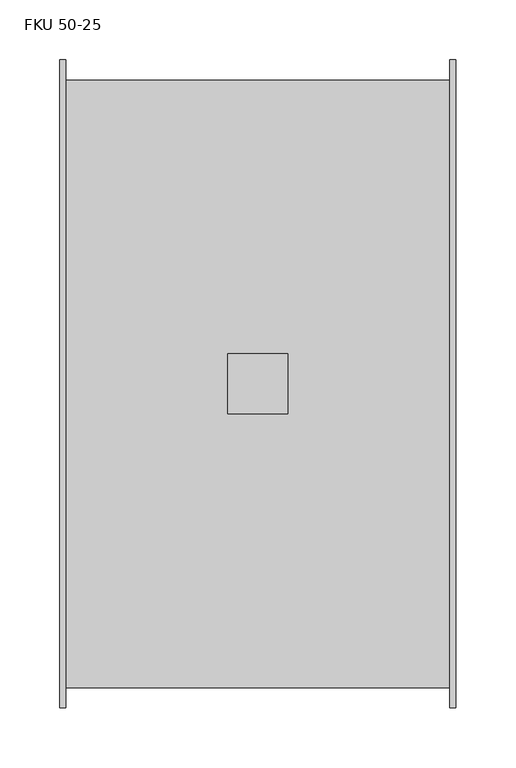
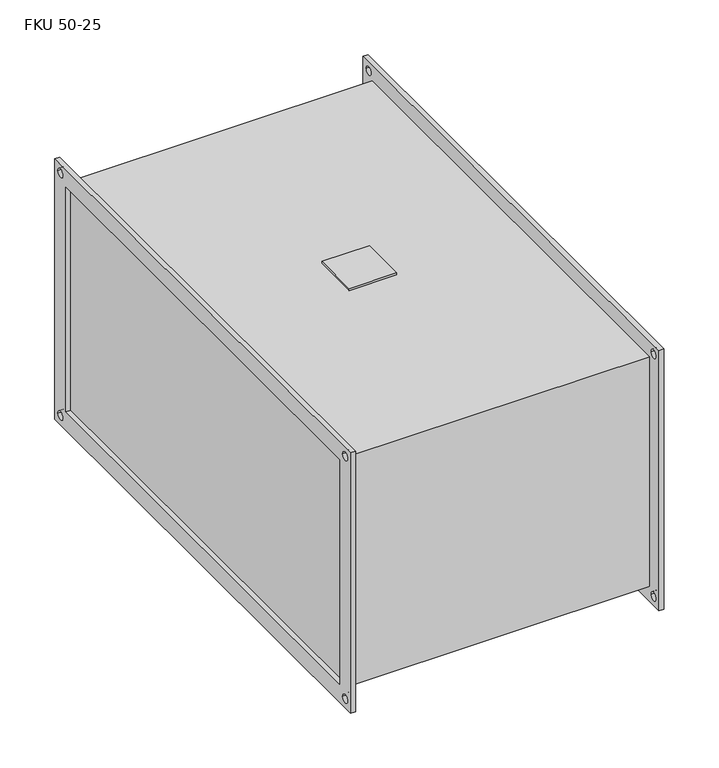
"""IFC4 building model written with IfcOpenShell, lengths in millimetres: damper geometry, KORF_Фильтр_Карманный_Укороченный_FKU : FKU 50-25."""

from ifc_helpers import new_model, si_unit, point, frame, frame_2d, origin, place, context, project, spatial, polyline, circle_curve, trimmed, segment, composite_curve, outline, extrude, source, transform, mapped, element, save


def fku_50_25_6c8950d9(model_context):
    return source(origin(), model_context, "Body", "SweptSolid", [
        extrude(outline(polyline([(140.0, -25.0), (140.0, 25.0), (190.0, 25.0), (190.0, -25.0), (140.0, -25.0)])), frame((0.0, 0.0, 128.0), z_axis=(0.0, 0.0, 1.0), x_axis=(1.0, 0.0, 0.0)), (0.0, 0.0, 1.0), 2.0),
        extrude(outline(polyline([(-270.0, 145.0), (270.0, 145.0), (270.0, -145.0), (-270.0, -145.0), (-270.0, 145.0)]), holes=[polyline([(-250.0, 125.0), (-250.0, -125.0), (250.0, -125.0), (250.0, 125.0), (-250.0, 125.0)]), composite_curve([segment(trimmed(circle_curve(frame_2d((260.0, 135.0)), 4.5), [point((255.5, 135.0))], [point((264.5, 135.0))], True, "CARTESIAN"), True, "CONTINUOUS"), segment(trimmed(circle_curve(frame_2d((260.0, 135.0)), 4.5), [point((264.5, 135.0))], [point((255.5, 135.0))], True, "CARTESIAN"), True, "CONTINUOUS")], self_intersect=False), composite_curve([segment(trimmed(circle_curve(frame_2d((-260.0, 135.0)), 4.5), [point((-264.5, 135.0))], [point((-255.5, 135.0))], True, "CARTESIAN"), True, "CONTINUOUS"), segment(trimmed(circle_curve(frame_2d((-260.0, 135.0)), 4.5), [point((-255.5, 135.0))], [point((-264.5, 135.0))], True, "CARTESIAN"), True, "CONTINUOUS")], self_intersect=False), composite_curve([segment(trimmed(circle_curve(frame_2d((-260.0, -135.0)), 4.5), [point((-264.5, -135.0))], [point((-255.5, -135.0))], True, "CARTESIAN"), True, "CONTINUOUS"), segment(trimmed(circle_curve(frame_2d((-260.0, -135.0)), 4.5), [point((-255.5, -135.0))], [point((-264.5, -135.0))], True, "CARTESIAN"), True, "CONTINUOUS")], self_intersect=False), composite_curve([segment(trimmed(circle_curve(frame_2d((260.0, -135.0)), 4.5), [point((255.5, -135.0))], [point((264.5, -135.0))], True, "CARTESIAN"), True, "CONTINUOUS"), segment(trimmed(circle_curve(frame_2d((260.0, -135.0)), 4.5), [point((264.5, -135.0))], [point((255.5, -135.0))], True, "CARTESIAN"), True, "CONTINUOUS")], self_intersect=False)]), frame((325.0, 0.0, 0.0), z_axis=(1.0, 0.0, 0.0), x_axis=(0.0, 1.0, 0.0)), (0.0, 0.0, 1.0), 5.0),
        extrude(outline(polyline([(-270.0, 145.0), (270.0, 145.0), (270.0, -145.0), (-270.0, -145.0), (-270.0, 145.0)]), holes=[polyline([(-250.0, 125.0), (-250.0, -125.0), (250.0, -125.0), (250.0, 125.0), (-250.0, 125.0)]), composite_curve([segment(trimmed(circle_curve(frame_2d((260.0, 135.0)), 4.5), [point((255.5, 135.0))], [point((264.5, 135.0))], True, "CARTESIAN"), True, "CONTINUOUS"), segment(trimmed(circle_curve(frame_2d((260.0, 135.0)), 4.5), [point((264.5, 135.0))], [point((255.5, 135.0))], True, "CARTESIAN"), True, "CONTINUOUS")], self_intersect=False), composite_curve([segment(trimmed(circle_curve(frame_2d((-260.0, 135.0)), 4.5), [point((-264.5, 135.0))], [point((-255.5, 135.0))], True, "CARTESIAN"), True, "CONTINUOUS"), segment(trimmed(circle_curve(frame_2d((-260.0, 135.0)), 4.5), [point((-255.5, 135.0))], [point((-264.5, 135.0))], True, "CARTESIAN"), True, "CONTINUOUS")], self_intersect=False), composite_curve([segment(trimmed(circle_curve(frame_2d((-260.0, -135.0)), 4.5), [point((-264.5, -135.0))], [point((-255.5, -135.0))], True, "CARTESIAN"), True, "CONTINUOUS"), segment(trimmed(circle_curve(frame_2d((-260.0, -135.0)), 4.5), [point((-255.5, -135.0))], [point((-264.5, -135.0))], True, "CARTESIAN"), True, "CONTINUOUS")], self_intersect=False), composite_curve([segment(trimmed(circle_curve(frame_2d((260.0, -135.0)), 4.5), [point((255.5, -135.0))], [point((264.5, -135.0))], True, "CARTESIAN"), True, "CONTINUOUS"), segment(trimmed(circle_curve(frame_2d((260.0, -135.0)), 4.5), [point((264.5, -135.0))], [point((255.5, -135.0))], True, "CARTESIAN"), True, "CONTINUOUS")], self_intersect=False)]), frame((0.0, 0.0, 0.0), z_axis=(1.0, 0.0, 0.0), x_axis=(0.0, 1.0, 0.0)), (0.0, 0.0, 1.0), 5.0),
        extrude(outline(polyline([(325.0, 253.0), (325.0, -253.0), (5.0, -253.0), (5.0, 253.0), (325.0, 253.0)])), frame((0.0, 0.0, -128.0), z_axis=(0.0, 0.0, 1.0), x_axis=(1.0, 0.0, 0.0)), (0.0, 0.0, 1.0), 256.0),
    ])


if __name__ == "__main__":
    model = new_model("IFC4")
    model_context = context("Model", 3, world=origin())
    ifc_project = project(units=[si_unit("LENGTHUNIT", "METRE", prefix="MILLI")], contexts=[model_context])
    site = spatial("IfcSite", under=ifc_project)
    building = spatial("IfcBuilding", under=site)
    placement = place(None, origin())
    fku_50_25_shape = fku_50_25_6c8950d9(model_context)
    element("IfcDamper", 1, ObjectType="KORF_Фильтр_Карманный_Укороченный_FKU : FKU 50-25", at=placement, inside=building, context=model_context, shape_type="MappedRepresentation", body=[
        mapped(fku_50_25_shape, transform((0.0, 0.0, 0.0), x_axis=(1.0, 0.0, 0.0), y_axis=(0.0, 1.0, 0.0), z_axis=(0.0, 0.0, 1.0))),
    ])
    save(model, "model.ifc")
